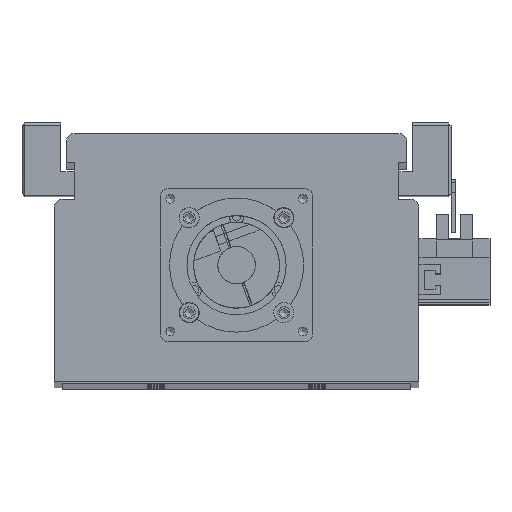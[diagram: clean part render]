
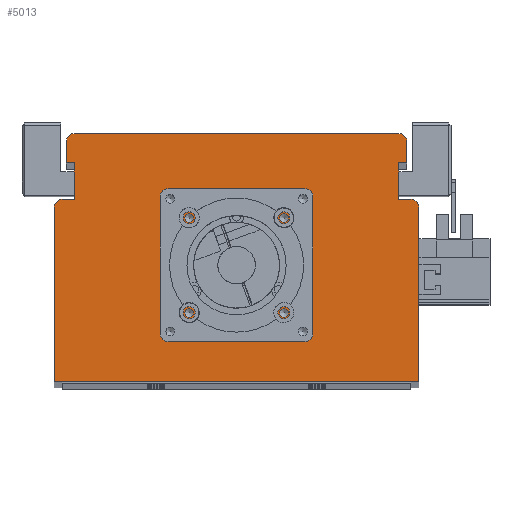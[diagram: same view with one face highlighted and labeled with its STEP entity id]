
A CAD part, top view. The second image highlights one B-rep face of the part: STEP entity #5013.
In plain terms, the highlighted planar face has unit normal (0, 0, 1).
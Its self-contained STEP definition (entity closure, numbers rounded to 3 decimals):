
#3571=CARTESIAN_POINT('',(19.321,61.5,1345.0));
#3572=VERTEX_POINT('',#3571);
#3573=CARTESIAN_POINT('',(17.7,61.5,1345.0));
#3574=DIRECTION('',(0.0,0.0,-1.0));
#3575=DIRECTION('',(1.0,0.0,0.0));
#3576=AXIS2_PLACEMENT_3D('',#3573,#3574,#3575);
#3577=CIRCLE('',#3576,1.621);
#3578=EDGE_CURVE('',#3572,#3572,#3577,.T.);
#3650=CARTESIAN_POINT('',(19.321,26.1,1345.0));
#3651=VERTEX_POINT('',#3650);
#3652=CARTESIAN_POINT('',(17.7,26.1,1345.0));
#3653=DIRECTION('',(0.0,0.0,-1.0));
#3654=DIRECTION('',(1.0,0.0,0.0));
#3655=AXIS2_PLACEMENT_3D('',#3652,#3653,#3654);
#3656=CIRCLE('',#3655,1.621);
#3657=EDGE_CURVE('',#3651,#3651,#3656,.T.);
#3729=CARTESIAN_POINT('',(-16.079,26.1,1345.0));
#3730=VERTEX_POINT('',#3729);
#3731=CARTESIAN_POINT('',(-17.7,26.1,1345.0));
#3732=DIRECTION('',(0.0,0.0,-1.0));
#3733=DIRECTION('',(1.0,0.0,0.0));
#3734=AXIS2_PLACEMENT_3D('',#3731,#3732,#3733);
#3735=CIRCLE('',#3734,1.621);
#3736=EDGE_CURVE('',#3730,#3730,#3735,.T.);
#3808=CARTESIAN_POINT('',(-16.079,61.5,1345.0));
#3809=VERTEX_POINT('',#3808);
#3810=CARTESIAN_POINT('',(-17.7,61.5,1345.0));
#3811=DIRECTION('',(0.0,0.0,-1.0));
#3812=DIRECTION('',(1.0,0.0,0.0));
#3813=AXIS2_PLACEMENT_3D('',#3810,#3811,#3812);
#3814=CIRCLE('',#3813,1.621);
#3815=EDGE_CURVE('',#3809,#3809,#3814,.T.);
#3849=CARTESIAN_POINT('',(26.5,43.8,1345.0));
#3850=VERTEX_POINT('',#3849);
#3851=CARTESIAN_POINT('',(24.5,43.8,1345.0));
#3852=DIRECTION('',(0.0,0.0,-1.0));
#3853=DIRECTION('',(1.0,0.0,0.0));
#3854=AXIS2_PLACEMENT_3D('',#3851,#3852,#3853);
#3855=CIRCLE('',#3854,2.0);
#3856=EDGE_CURVE('',#3850,#3850,#3855,.T.);
#3898=CARTESIAN_POINT('',(-22.5,43.8,1345.0));
#3899=VERTEX_POINT('',#3898);
#3900=CARTESIAN_POINT('',(-24.5,43.8,1345.0));
#3901=DIRECTION('',(0.0,0.0,-1.0));
#3902=DIRECTION('',(1.0,0.0,0.0));
#3903=AXIS2_PLACEMENT_3D('',#3900,#3901,#3902);
#3904=CIRCLE('',#3903,2.0);
#3905=EDGE_CURVE('',#3899,#3899,#3904,.T.);
#4829=CARTESIAN_POINT('',(21.05,43.8,1345.0));
#4830=VERTEX_POINT('',#4829);
#4831=CARTESIAN_POINT('',(0.0,43.8,1345.0));
#4832=DIRECTION('',(0.0,0.0,-1.0));
#4833=DIRECTION('',(-1.0,0.0,0.0));
#4834=AXIS2_PLACEMENT_3D('',#4831,#4832,#4833);
#4835=CIRCLE('',#4834,21.05);
#4836=EDGE_CURVE('',#4830,#4830,#4835,.T.);
#4853=CARTESIAN_POINT('',(0.,29.533,1345.0));
#4854=DIRECTION('',(0.0,0.0,1.0));
#4855=DIRECTION('',(1.0,0.0,0.0));
#4856=AXIS2_PLACEMENT_3D('',#4853,#4854,#4855);
#4857=PLANE('',#4856);
#4858=CARTESIAN_POINT('',(-65.,68.5,1345.0));
#4859=VERTEX_POINT('',#4858);
#4860=CARTESIAN_POINT('',(-60.5,68.5,1345.));
#4861=VERTEX_POINT('',#4860);
#4862=CARTESIAN_POINT('',(-65.,68.5,1345.0));
#4863=DIRECTION('',(1.0,0.0,0.0));
#4864=VECTOR('',#4863,4.5);
#4865=LINE('',#4862,#4864);
#4866=EDGE_CURVE('',#4859,#4861,#4865,.T.);
#4867=ORIENTED_EDGE('',*,*,#4866,.F.);
#4868=CARTESIAN_POINT('',(-68.,65.5,1345.0));
#4869=VERTEX_POINT('',#4868);
#4870=CARTESIAN_POINT('',(-65.,65.5,1345.0));
#4871=DIRECTION('',(0.0,0.0,-1.0));
#4872=DIRECTION('',(0.0,1.0,0.0));
#4873=AXIS2_PLACEMENT_3D('',#4870,#4871,#4872);
#4874=CIRCLE('',#4873,3.);
#4875=EDGE_CURVE('',#4869,#4859,#4874,.T.);
#4876=ORIENTED_EDGE('',*,*,#4875,.F.);
#4877=CARTESIAN_POINT('',(-68.0,0.5,1345.0));
#4878=VERTEX_POINT('',#4877);
#4879=CARTESIAN_POINT('',(-68.0,0.5,1345.0));
#4880=DIRECTION('',(0.0,1.0,0.0));
#4881=VECTOR('',#4880,65.0);
#4882=LINE('',#4879,#4881);
#4883=EDGE_CURVE('',#4878,#4869,#4882,.T.);
#4884=ORIENTED_EDGE('',*,*,#4883,.F.);
#4885=CARTESIAN_POINT('',(68.0,0.5,1345.0));
#4886=VERTEX_POINT('',#4885);
#4887=CARTESIAN_POINT('',(68.0,0.5,1345.0));
#4888=DIRECTION('',(-1.0,0.0,0.0));
#4889=VECTOR('',#4888,136.0);
#4890=LINE('',#4887,#4889);
#4891=EDGE_CURVE('',#4886,#4878,#4890,.T.);
#4892=ORIENTED_EDGE('',*,*,#4891,.F.);
#4893=CARTESIAN_POINT('',(68.0,65.5,1345.0));
#4894=VERTEX_POINT('',#4893);
#4895=CARTESIAN_POINT('',(68.0,65.5,1345.0));
#4896=DIRECTION('',(0.0,-1.0,0.0));
#4897=VECTOR('',#4896,65.0);
#4898=LINE('',#4895,#4897);
#4899=EDGE_CURVE('',#4894,#4886,#4898,.T.);
#4900=ORIENTED_EDGE('',*,*,#4899,.F.);
#4901=CARTESIAN_POINT('',(65.,68.5,1345.0));
#4902=VERTEX_POINT('',#4901);
#4903=CARTESIAN_POINT('',(65.,65.5,1345.0));
#4904=DIRECTION('',(0.0,0.0,-1.0));
#4905=DIRECTION('',(1.0,0.0,0.0));
#4906=AXIS2_PLACEMENT_3D('',#4903,#4904,#4905);
#4907=CIRCLE('',#4906,3.);
#4908=EDGE_CURVE('',#4902,#4894,#4907,.T.);
#4909=ORIENTED_EDGE('',*,*,#4908,.F.);
#4910=CARTESIAN_POINT('',(60.5,68.5,1345.));
#4911=VERTEX_POINT('',#4910);
#4912=CARTESIAN_POINT('',(60.5,68.5,1345.));
#4913=DIRECTION('',(1.0,0.0,0.0));
#4914=VECTOR('',#4913,4.5);
#4915=LINE('',#4912,#4914);
#4916=EDGE_CURVE('',#4911,#4902,#4915,.T.);
#4917=ORIENTED_EDGE('',*,*,#4916,.F.);
#4918=CARTESIAN_POINT('',(60.5,82.,1345.0));
#4919=VERTEX_POINT('',#4918);
#4920=CARTESIAN_POINT('',(60.5,82.,1345.0));
#4921=DIRECTION('',(0.0,-1.0,0.0));
#4922=VECTOR('',#4921,13.5);
#4923=LINE('',#4920,#4922);
#4924=EDGE_CURVE('',#4919,#4911,#4923,.T.);
#4925=ORIENTED_EDGE('',*,*,#4924,.F.);
#4926=CARTESIAN_POINT('',(63.5,82.,1345.0));
#4927=VERTEX_POINT('',#4926);
#4928=CARTESIAN_POINT('',(63.5,82.,1345.0));
#4929=DIRECTION('',(-1.0,0.0,0.0));
#4930=VECTOR('',#4929,3.0);
#4931=LINE('',#4928,#4930);
#4932=EDGE_CURVE('',#4927,#4919,#4931,.T.);
#4933=ORIENTED_EDGE('',*,*,#4932,.F.);
#4934=CARTESIAN_POINT('',(63.5,90.0,1345.0));
#4935=VERTEX_POINT('',#4934);
#4936=CARTESIAN_POINT('',(63.5,90.0,1345.0));
#4937=DIRECTION('',(0.0,-1.0,0.0));
#4938=VECTOR('',#4937,8.);
#4939=LINE('',#4936,#4938);
#4940=EDGE_CURVE('',#4935,#4927,#4939,.T.);
#4941=ORIENTED_EDGE('',*,*,#4940,.F.);
#4942=CARTESIAN_POINT('',(60.5,93.,1345.0));
#4943=VERTEX_POINT('',#4942);
#4944=CARTESIAN_POINT('',(60.5,90.0,1345.0));
#4945=DIRECTION('',(0.0,0.0,-1.0));
#4946=DIRECTION('',(1.0,0.0,0.0));
#4947=AXIS2_PLACEMENT_3D('',#4944,#4945,#4946);
#4948=CIRCLE('',#4947,3.);
#4949=EDGE_CURVE('',#4943,#4935,#4948,.T.);
#4950=ORIENTED_EDGE('',*,*,#4949,.F.);
#4951=CARTESIAN_POINT('',(-60.5,93.0,1345.0));
#4952=VERTEX_POINT('',#4951);
#4953=CARTESIAN_POINT('',(-60.5,93.0,1345.0));
#4954=DIRECTION('',(1.0,0.0,0.0));
#4955=VECTOR('',#4954,121.0);
#4956=LINE('',#4953,#4955);
#4957=EDGE_CURVE('',#4952,#4943,#4956,.T.);
#4958=ORIENTED_EDGE('',*,*,#4957,.F.);
#4959=CARTESIAN_POINT('',(-63.5,90.0,1345.0));
#4960=VERTEX_POINT('',#4959);
#4961=CARTESIAN_POINT('',(-60.5,90.0,1345.0));
#4962=DIRECTION('',(0.0,0.0,-1.0));
#4963=DIRECTION('',(0.0,1.0,0.0));
#4964=AXIS2_PLACEMENT_3D('',#4961,#4962,#4963);
#4965=CIRCLE('',#4964,3.);
#4966=EDGE_CURVE('',#4960,#4952,#4965,.T.);
#4967=ORIENTED_EDGE('',*,*,#4966,.F.);
#4968=CARTESIAN_POINT('',(-63.5,82.,1345.0));
#4969=VERTEX_POINT('',#4968);
#4970=CARTESIAN_POINT('',(-63.5,82.,1345.0));
#4971=DIRECTION('',(0.0,1.0,0.0));
#4972=VECTOR('',#4971,8.);
#4973=LINE('',#4970,#4972);
#4974=EDGE_CURVE('',#4969,#4960,#4973,.T.);
#4975=ORIENTED_EDGE('',*,*,#4974,.F.);
#4976=CARTESIAN_POINT('',(-60.5,82.,1345.0));
#4977=VERTEX_POINT('',#4976);
#4978=CARTESIAN_POINT('',(-60.5,82.,1345.0));
#4979=DIRECTION('',(-1.0,0.0,0.0));
#4980=VECTOR('',#4979,3.);
#4981=LINE('',#4978,#4980);
#4982=EDGE_CURVE('',#4977,#4969,#4981,.T.);
#4983=ORIENTED_EDGE('',*,*,#4982,.F.);
#4984=CARTESIAN_POINT('',(-60.5,68.5,1345.));
#4985=DIRECTION('',(0.0,1.0,0.0));
#4986=VECTOR('',#4985,13.5);
#4987=LINE('',#4984,#4986);
#4988=EDGE_CURVE('',#4861,#4977,#4987,.T.);
#4989=ORIENTED_EDGE('',*,*,#4988,.F.);
#4990=EDGE_LOOP('',(#4867,#4876,#4884,#4892,#4900,#4909,#4917,#4925,#4933,#4941,#4950,#4958,#4967,#4975,#4983,#4989));
#4991=FACE_OUTER_BOUND('',#4990,.T.);
#4992=ORIENTED_EDGE('',*,*,#3578,.T.);
#4993=EDGE_LOOP('',(#4992));
#4994=FACE_BOUND('',#4993,.T.);
#4995=ORIENTED_EDGE('',*,*,#3657,.T.);
#4996=EDGE_LOOP('',(#4995));
#4997=FACE_BOUND('',#4996,.T.);
#4998=ORIENTED_EDGE('',*,*,#3736,.T.);
#4999=EDGE_LOOP('',(#4998));
#5000=FACE_BOUND('',#4999,.T.);
#5001=ORIENTED_EDGE('',*,*,#3815,.T.);
#5002=EDGE_LOOP('',(#5001));
#5003=FACE_BOUND('',#5002,.T.);
#5004=ORIENTED_EDGE('',*,*,#3856,.T.);
#5005=EDGE_LOOP('',(#5004));
#5006=FACE_BOUND('',#5005,.T.);
#5007=ORIENTED_EDGE('',*,*,#3905,.T.);
#5008=EDGE_LOOP('',(#5007));
#5009=FACE_BOUND('',#5008,.T.);
#5010=ORIENTED_EDGE('',*,*,#4836,.T.);
#5011=EDGE_LOOP('',(#5010));
#5012=FACE_BOUND('',#5011,.T.);
#5013=ADVANCED_FACE('',(#4991,#4994,#4997,#5000,#5003,#5006,#5009,#5012),#4857,.T.);
